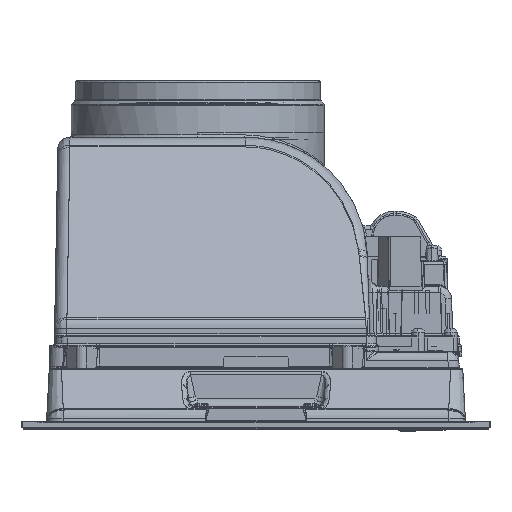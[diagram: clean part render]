
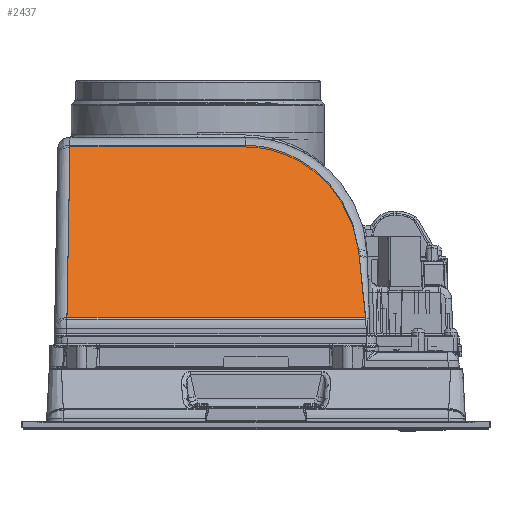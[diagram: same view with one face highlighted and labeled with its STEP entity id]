
A CAD part, left-side view. The second image highlights one B-rep face of the part: STEP entity #2437.
In plain terms, the highlighted planar face has unit normal (-0.737, 0, 0.675) as drawn and (-0.737, -0.676, 0) by its records, which use the part's own axes.
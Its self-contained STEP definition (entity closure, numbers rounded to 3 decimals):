
#2437=ADVANCED_FACE('',(#10723),#136365,.T.);
#10723=FACE_OUTER_BOUND('',#19121,.T.);
#19121=EDGE_LOOP('',(#35396,#35397,#35398,#35399,#35400,#35401));
#35396=ORIENTED_EDGE('',*,*,#73971,.F.);
#35397=ORIENTED_EDGE('',*,*,#78645,.T.);
#35398=ORIENTED_EDGE('',*,*,#73976,.T.);
#35399=ORIENTED_EDGE('',*,*,#73975,.T.);
#35400=ORIENTED_EDGE('',*,*,#73974,.T.);
#35401=ORIENTED_EDGE('',*,*,#73973,.T.);
#73971=EDGE_CURVE('',#120818,#120817,#104345,.T.);
#73973=EDGE_CURVE('',#120820,#120817,#104347,.T.);
#73974=EDGE_CURVE('',#120821,#120820,#104348,.T.);
#73975=EDGE_CURVE('',#120822,#120821,#104349,.T.);
#73976=EDGE_CURVE('',#120823,#120822,#104350,.T.);
#78645=EDGE_CURVE('',#120818,#120823,#107881,.T.);
#104345=B_SPLINE_CURVE_WITH_KNOTS('',1,(#273067,#273068),.UNSPECIFIED.,
 .F.,.F.,(2,2),(-182.607,0.),.UNSPECIFIED.);
#104347=B_SPLINE_CURVE_WITH_KNOTS('',1,(#273071,#273072),.UNSPECIFIED.,
 .F.,.F.,(2,2),(-142.973,0.),.UNSPECIFIED.);
#104348=B_SPLINE_CURVE_WITH_KNOTS('',1,(#273073,#273074),.UNSPECIFIED.,
 .F.,.F.,(2,2),(-107.211,0.),.UNSPECIFIED.);
#104349=B_SPLINE_CURVE_WITH_KNOTS('',3,(#273075,#273076,#273077,#273078,
#273079,#273080,#273081,#273082,#273083,#273084,#273085,#273086,#273087,
#273088,#273089,#273090,#273091,#273092,#273093,#273094,#273095,#273096,
#273097,#273098,#273099,#273100,#273101,#273102,#273103,#273104,#273105,
#273106,#273107,#273108,#273109),.UNSPECIFIED.,.F.,.F.,(4,1,1,1,1,1,1,1,
1,1,1,1,1,1,1,1,1,1,1,1,1,1,1,1,1,1,1,1,1,1,1,1,4),(-120.808,-115.22,
-109.673,-104.193,-98.827,-93.588,
-88.49,-83.54,-78.745,-74.107,
-69.628,-65.307,-61.141,-57.125,
-53.256,-49.526,-45.929,-42.457,
-39.102,-35.857,-32.713,-29.661,
-26.695,-23.805,-20.985,-18.225,
-15.518,-12.858,-10.237,-7.647,
-5.082,-2.536,0.),.UNSPECIFIED.);
#104350=B_SPLINE_CURVE_WITH_KNOTS('',1,(#273110,#273111),.UNSPECIFIED.,
 .F.,.F.,(2,2),(-4.742,0.),.UNSPECIFIED.);
#107881=B_SPLINE_CURVE_WITH_KNOTS('',3,(#290098,#290099,#290100,#290101,
#290102,#290103,#290104),.UNSPECIFIED.,.F.,.F.,(4,1,1,1,4),(0.,10.8,
23.034,36.765,52.087),.UNSPECIFIED.);
#120817=VERTEX_POINT('',#266260);
#120818=VERTEX_POINT('',#266261);
#120820=VERTEX_POINT('',#266263);
#120821=VERTEX_POINT('',#266264);
#120822=VERTEX_POINT('',#266265);
#120823=VERTEX_POINT('',#266266);
#136365=PLANE('',#143454);
#143454=AXIS2_PLACEMENT_3D('',#233898,#156313,$);
#156313=DIRECTION('',(-0.737,-0.676,0.));
#233898=CARTESIAN_POINT('',(-221.323,-19.485,-85.983));
#266260=CARTESIAN_POINT('',(-211.031,-30.72,115.551));
#266261=CARTESIAN_POINT('',(-211.031,-30.72,-67.056));
#266263=CARTESIAN_POINT('',(-114.459,-136.133,113.711));
#266264=CARTESIAN_POINT('',(-114.459,-136.133,6.5));
#266265=CARTESIAN_POINT('',(-172.762,-72.492,-62.663));
#266266=CARTESIAN_POINT('',(-175.954,-69.008,-63.073));
#273067=CARTESIAN_POINT('',(-211.031,-30.72,-67.056));
#273068=CARTESIAN_POINT('',(-211.031,-30.72,115.551));
#273071=CARTESIAN_POINT('',(-114.459,-136.133,113.711));
#273072=CARTESIAN_POINT('',(-211.031,-30.72,115.551));
#273073=CARTESIAN_POINT('',(-114.459,-136.133,6.5));
#273074=CARTESIAN_POINT('',(-114.459,-136.133,113.711));
#273075=CARTESIAN_POINT('',(-172.762,-72.492,-62.663));
#273076=CARTESIAN_POINT('',(-171.473,-73.899,-62.496));
#273077=CARTESIAN_POINT('',(-168.909,-76.698,-62.08));
#273078=CARTESIAN_POINT('',(-165.109,-80.846,-61.217));
#273079=CARTESIAN_POINT('',(-161.393,-84.902,-60.128));
#273080=CARTESIAN_POINT('',(-157.787,-88.838,-58.83));
#273081=CARTESIAN_POINT('',(-154.312,-92.632,-57.34));
#273082=CARTESIAN_POINT('',(-150.979,-96.269,-55.677));
#273083=CARTESIAN_POINT('',(-147.8,-99.74,-53.86));
#273084=CARTESIAN_POINT('',(-144.779,-103.037,-51.907));
#273085=CARTESIAN_POINT('',(-141.921,-106.157,-49.836));
#273086=CARTESIAN_POINT('',(-139.228,-109.096,-47.663));
#273087=CARTESIAN_POINT('',(-136.701,-111.854,-45.404));
#273088=CARTESIAN_POINT('',(-134.338,-114.434,-43.074));
#273089=CARTESIAN_POINT('',(-132.136,-116.838,-40.687));
#273090=CARTESIAN_POINT('',(-130.091,-119.069,-38.254));
#273091=CARTESIAN_POINT('',(-128.2,-121.134,-35.786));
#273092=CARTESIAN_POINT('',(-126.456,-123.037,-33.292));
#273093=CARTESIAN_POINT('',(-124.855,-124.785,-30.78));
#273094=CARTESIAN_POINT('',(-123.391,-126.383,-28.258));
#273095=CARTESIAN_POINT('',(-122.058,-127.838,-25.73));
#273096=CARTESIAN_POINT('',(-120.85,-129.156,-23.202));
#273097=CARTESIAN_POINT('',(-119.763,-130.343,-20.678));
#273098=CARTESIAN_POINT('',(-118.79,-131.405,-18.159));
#273099=CARTESIAN_POINT('',(-117.926,-132.348,-15.648));
#273100=CARTESIAN_POINT('',(-117.168,-133.176,-13.147));
#273101=CARTESIAN_POINT('',(-116.51,-133.894,-10.656));
#273102=CARTESIAN_POINT('',(-115.949,-134.506,-8.176));
#273103=CARTESIAN_POINT('',(-115.482,-135.017,-5.708));
#273104=CARTESIAN_POINT('',(-115.104,-135.429,-3.249));
#273105=CARTESIAN_POINT('',(-114.814,-135.746,-0.801));
#273106=CARTESIAN_POINT('',(-114.608,-135.97,1.639));
#273107=CARTESIAN_POINT('',(-114.486,-136.103,4.072));
#273108=CARTESIAN_POINT('',(-114.459,-136.133,5.692));
#273109=CARTESIAN_POINT('',(-114.459,-136.133,6.5));
#273110=CARTESIAN_POINT('',(-175.954,-69.008,-63.073));
#273111=CARTESIAN_POINT('',(-172.762,-72.492,-62.663));
#290098=CARTESIAN_POINT('',(-211.031,-30.72,-67.056));
#290099=CARTESIAN_POINT('',(-208.6,-33.373,-66.917));
#290100=CARTESIAN_POINT('',(-203.418,-39.03,-66.517));
#290101=CARTESIAN_POINT('',(-195.161,-48.043,-65.615));
#290102=CARTESIAN_POINT('',(-185.902,-58.149,-64.406));
#290103=CARTESIAN_POINT('',(-179.391,-65.257,-63.516));
#290104=CARTESIAN_POINT('',(-175.954,-69.008,-63.073));
